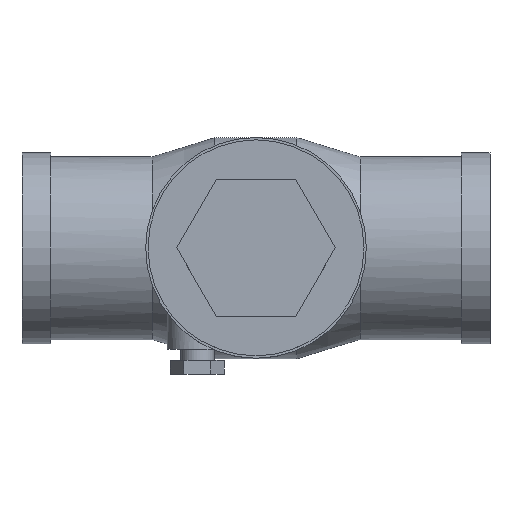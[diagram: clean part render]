
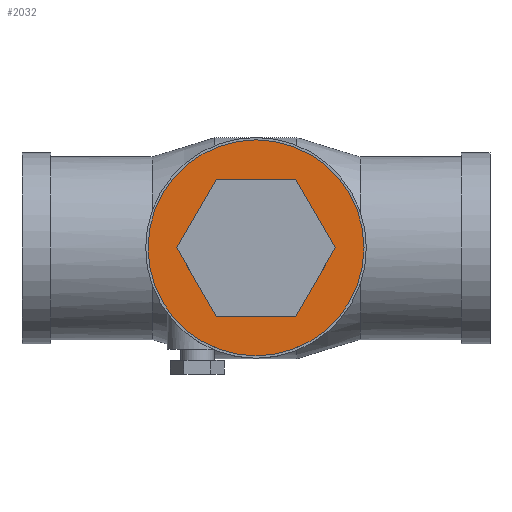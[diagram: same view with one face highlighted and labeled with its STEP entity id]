
A CAD part, top view. The second image highlights one B-rep face of the part: STEP entity #2032.
In plain terms, the highlighted planar face has unit normal (0, 0, 1).
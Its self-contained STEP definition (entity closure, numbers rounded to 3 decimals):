
#1963 = CYLINDRICAL_SURFACE('',#1964,0.81);
#1964 = AXIS2_PLACEMENT_3D('',#1965,#1966,#1967);
#1965 = CARTESIAN_POINT('',(1.755,0.,1.37));
#1966 = DIRECTION('',(0.,0.,1.));
#1967 = DIRECTION('',(1.,0.,-0.));
#1978 = EDGE_CURVE('',#1979,#1979,#1981,.T.);
#1979 = VERTEX_POINT('',#1980);
#1980 = CARTESIAN_POINT('',(2.565,0.,1.485));
#1981 = SURFACE_CURVE('',#1982,(#1987,#1994),.PCURVE_S1.);
#1982 = CIRCLE('',#1983,0.81);
#1983 = AXIS2_PLACEMENT_3D('',#1984,#1985,#1986);
#1984 = CARTESIAN_POINT('',(1.755,0.,1.485));
#1985 = DIRECTION('',(0.,0.,-1.));
#1986 = DIRECTION('',(1.,0.,0.));
#1987 = PCURVE('',#1963,#1988);
#1988 = DEFINITIONAL_REPRESENTATION('',(#1989),#1993);
#1989 = LINE('',#1990,#1991);
#1990 = CARTESIAN_POINT('',(6.283,0.115));
#1991 = VECTOR('',#1992,1.);
#1992 = DIRECTION('',(-1.,0.));
#1993 = ( GEOMETRIC_REPRESENTATION_CONTEXT(2) 
PARAMETRIC_REPRESENTATION_CONTEXT() REPRESENTATION_CONTEXT('2D SPACE',''
  ) );
#1994 = PCURVE('',#1995,#2000);
#1995 = PLANE('',#1996);
#1996 = AXIS2_PLACEMENT_3D('',#1997,#1998,#1999);
#1997 = CARTESIAN_POINT('',(1.755,0.,1.485));
#1998 = DIRECTION('',(0.,0.,1.));
#1999 = DIRECTION('',(1.,0.,-0.));
#2000 = DEFINITIONAL_REPRESENTATION('',(#2001),#2009);
#2001 = ( BOUNDED_CURVE() B_SPLINE_CURVE(2,(#2002,#2003,#2004,#2005,
#2006,#2007,#2008),.UNSPECIFIED.,.T.,.F.) B_SPLINE_CURVE_WITH_KNOTS((1,2
    ,2,2,2,1),(-2.094,0.,2.094,4.189,
6.283,8.378),.UNSPECIFIED.) CURVE() 
GEOMETRIC_REPRESENTATION_ITEM() RATIONAL_B_SPLINE_CURVE((1.,0.5,1.,0.5,
1.,0.5,1.)) REPRESENTATION_ITEM('') );
#2002 = CARTESIAN_POINT('',(0.81,0.));
#2003 = CARTESIAN_POINT('',(0.81,-1.403));
#2004 = CARTESIAN_POINT('',(-0.405,-0.701));
#2005 = CARTESIAN_POINT('',(-1.62,0.));
#2006 = CARTESIAN_POINT('',(-0.405,0.701));
#2007 = CARTESIAN_POINT('',(0.81,1.403));
#2008 = CARTESIAN_POINT('',(0.81,0.));
#2009 = ( GEOMETRIC_REPRESENTATION_CONTEXT(2) 
PARAMETRIC_REPRESENTATION_CONTEXT() REPRESENTATION_CONTEXT('2D SPACE',''
  ) );
#2032 = ADVANCED_FACE('',(#2033,#2036),#1995,.T.);
#2033 = FACE_BOUND('',#2034,.T.);
#2034 = EDGE_LOOP('',(#2035));
#2035 = ORIENTED_EDGE('',*,*,#1978,.F.);
#2036 = FACE_BOUND('',#2037,.T.);
#2037 = EDGE_LOOP('',(#2038,#2068,#2096,#2124,#2152,#2180));
#2038 = ORIENTED_EDGE('',*,*,#2039,.F.);
#2039 = EDGE_CURVE('',#2040,#2042,#2044,.T.);
#2040 = VERTEX_POINT('',#2041);
#2041 = CARTESIAN_POINT('',(1.458,-0.515,1.485));
#2042 = VERTEX_POINT('',#2043);
#2043 = CARTESIAN_POINT('',(2.052,-0.515,1.485));
#2044 = SURFACE_CURVE('',#2045,(#2049,#2056),.PCURVE_S1.);
#2045 = LINE('',#2046,#2047);
#2046 = CARTESIAN_POINT('',(1.458,-0.515,1.485));
#2047 = VECTOR('',#2048,1.);
#2048 = DIRECTION('',(1.,0.,0.));
#2049 = PCURVE('',#1995,#2050);
#2050 = DEFINITIONAL_REPRESENTATION('',(#2051),#2055);
#2051 = LINE('',#2052,#2053);
#2052 = CARTESIAN_POINT('',(-0.297,-0.515));
#2053 = VECTOR('',#2054,1.);
#2054 = DIRECTION('',(1.,0.));
#2055 = ( GEOMETRIC_REPRESENTATION_CONTEXT(2) 
PARAMETRIC_REPRESENTATION_CONTEXT() REPRESENTATION_CONTEXT('2D SPACE',''
  ) );
#2056 = PCURVE('',#2057,#2062);
#2057 = PLANE('',#2058);
#2058 = AXIS2_PLACEMENT_3D('',#2059,#2060,#2061);
#2059 = CARTESIAN_POINT('',(1.755,-0.515,1.485));
#2060 = DIRECTION('',(0.,-1.,0.));
#2061 = DIRECTION('',(1.,0.,0.));
#2062 = DEFINITIONAL_REPRESENTATION('',(#2063),#2067);
#2063 = LINE('',#2064,#2065);
#2064 = CARTESIAN_POINT('',(-0.297,0.));
#2065 = VECTOR('',#2066,1.);
#2066 = DIRECTION('',(1.,0.));
#2067 = ( GEOMETRIC_REPRESENTATION_CONTEXT(2) 
PARAMETRIC_REPRESENTATION_CONTEXT() REPRESENTATION_CONTEXT('2D SPACE',''
  ) );
#2068 = ORIENTED_EDGE('',*,*,#2069,.F.);
#2069 = EDGE_CURVE('',#2070,#2040,#2072,.T.);
#2070 = VERTEX_POINT('',#2071);
#2071 = CARTESIAN_POINT('',(1.16,0.,1.485));
#2072 = SURFACE_CURVE('',#2073,(#2077,#2084),.PCURVE_S1.);
#2073 = LINE('',#2074,#2075);
#2074 = CARTESIAN_POINT('',(1.16,0.,1.485));
#2075 = VECTOR('',#2076,1.);
#2076 = DIRECTION('',(0.5,-0.866,0.));
#2077 = PCURVE('',#1995,#2078);
#2078 = DEFINITIONAL_REPRESENTATION('',(#2079),#2083);
#2079 = LINE('',#2080,#2081);
#2080 = CARTESIAN_POINT('',(-0.595,0.));
#2081 = VECTOR('',#2082,1.);
#2082 = DIRECTION('',(0.5,-0.866));
#2083 = ( GEOMETRIC_REPRESENTATION_CONTEXT(2) 
PARAMETRIC_REPRESENTATION_CONTEXT() REPRESENTATION_CONTEXT('2D SPACE',''
  ) );
#2084 = PCURVE('',#2085,#2090);
#2085 = PLANE('',#2086);
#2086 = AXIS2_PLACEMENT_3D('',#2087,#2088,#2089);
#2087 = CARTESIAN_POINT('',(1.309,-0.258,1.485));
#2088 = DIRECTION('',(-0.866,-0.5,0.));
#2089 = DIRECTION('',(0.5,-0.866,0.));
#2090 = DEFINITIONAL_REPRESENTATION('',(#2091),#2095);
#2091 = LINE('',#2092,#2093);
#2092 = CARTESIAN_POINT('',(-0.297,0.));
#2093 = VECTOR('',#2094,1.);
#2094 = DIRECTION('',(1.,0.));
#2095 = ( GEOMETRIC_REPRESENTATION_CONTEXT(2) 
PARAMETRIC_REPRESENTATION_CONTEXT() REPRESENTATION_CONTEXT('2D SPACE',''
  ) );
#2096 = ORIENTED_EDGE('',*,*,#2097,.F.);
#2097 = EDGE_CURVE('',#2098,#2070,#2100,.T.);
#2098 = VERTEX_POINT('',#2099);
#2099 = CARTESIAN_POINT('',(1.458,0.515,1.485));
#2100 = SURFACE_CURVE('',#2101,(#2105,#2112),.PCURVE_S1.);
#2101 = LINE('',#2102,#2103);
#2102 = CARTESIAN_POINT('',(1.458,0.515,1.485));
#2103 = VECTOR('',#2104,1.);
#2104 = DIRECTION('',(-0.5,-0.866,0.));
#2105 = PCURVE('',#1995,#2106);
#2106 = DEFINITIONAL_REPRESENTATION('',(#2107),#2111);
#2107 = LINE('',#2108,#2109);
#2108 = CARTESIAN_POINT('',(-0.297,0.515));
#2109 = VECTOR('',#2110,1.);
#2110 = DIRECTION('',(-0.5,-0.866));
#2111 = ( GEOMETRIC_REPRESENTATION_CONTEXT(2) 
PARAMETRIC_REPRESENTATION_CONTEXT() REPRESENTATION_CONTEXT('2D SPACE',''
  ) );
#2112 = PCURVE('',#2113,#2118);
#2113 = PLANE('',#2114);
#2114 = AXIS2_PLACEMENT_3D('',#2115,#2116,#2117);
#2115 = CARTESIAN_POINT('',(1.309,0.258,1.485));
#2116 = DIRECTION('',(-0.866,0.5,0.));
#2117 = DIRECTION('',(-0.5,-0.866,0.));
#2118 = DEFINITIONAL_REPRESENTATION('',(#2119),#2123);
#2119 = LINE('',#2120,#2121);
#2120 = CARTESIAN_POINT('',(-0.297,0.));
#2121 = VECTOR('',#2122,1.);
#2122 = DIRECTION('',(1.,0.));
#2123 = ( GEOMETRIC_REPRESENTATION_CONTEXT(2) 
PARAMETRIC_REPRESENTATION_CONTEXT() REPRESENTATION_CONTEXT('2D SPACE',''
  ) );
#2124 = ORIENTED_EDGE('',*,*,#2125,.F.);
#2125 = EDGE_CURVE('',#2126,#2098,#2128,.T.);
#2126 = VERTEX_POINT('',#2127);
#2127 = CARTESIAN_POINT('',(2.052,0.515,1.485));
#2128 = SURFACE_CURVE('',#2129,(#2133,#2140),.PCURVE_S1.);
#2129 = LINE('',#2130,#2131);
#2130 = CARTESIAN_POINT('',(2.052,0.515,1.485));
#2131 = VECTOR('',#2132,1.);
#2132 = DIRECTION('',(-1.,0.,0.));
#2133 = PCURVE('',#1995,#2134);
#2134 = DEFINITIONAL_REPRESENTATION('',(#2135),#2139);
#2135 = LINE('',#2136,#2137);
#2136 = CARTESIAN_POINT('',(0.297,0.515));
#2137 = VECTOR('',#2138,1.);
#2138 = DIRECTION('',(-1.,0.));
#2139 = ( GEOMETRIC_REPRESENTATION_CONTEXT(2) 
PARAMETRIC_REPRESENTATION_CONTEXT() REPRESENTATION_CONTEXT('2D SPACE',''
  ) );
#2140 = PCURVE('',#2141,#2146);
#2141 = PLANE('',#2142);
#2142 = AXIS2_PLACEMENT_3D('',#2143,#2144,#2145);
#2143 = CARTESIAN_POINT('',(1.755,0.515,1.485));
#2144 = DIRECTION('',(0.,1.,0.));
#2145 = DIRECTION('',(-1.,0.,0.));
#2146 = DEFINITIONAL_REPRESENTATION('',(#2147),#2151);
#2147 = LINE('',#2148,#2149);
#2148 = CARTESIAN_POINT('',(-0.297,0.));
#2149 = VECTOR('',#2150,1.);
#2150 = DIRECTION('',(1.,0.));
#2151 = ( GEOMETRIC_REPRESENTATION_CONTEXT(2) 
PARAMETRIC_REPRESENTATION_CONTEXT() REPRESENTATION_CONTEXT('2D SPACE',''
  ) );
#2152 = ORIENTED_EDGE('',*,*,#2153,.F.);
#2153 = EDGE_CURVE('',#2154,#2126,#2156,.T.);
#2154 = VERTEX_POINT('',#2155);
#2155 = CARTESIAN_POINT('',(2.35,0.,1.485));
#2156 = SURFACE_CURVE('',#2157,(#2161,#2168),.PCURVE_S1.);
#2157 = LINE('',#2158,#2159);
#2158 = CARTESIAN_POINT('',(2.35,0.,1.485));
#2159 = VECTOR('',#2160,1.);
#2160 = DIRECTION('',(-0.5,0.866,0.));
#2161 = PCURVE('',#1995,#2162);
#2162 = DEFINITIONAL_REPRESENTATION('',(#2163),#2167);
#2163 = LINE('',#2164,#2165);
#2164 = CARTESIAN_POINT('',(0.595,0.));
#2165 = VECTOR('',#2166,1.);
#2166 = DIRECTION('',(-0.5,0.866));
#2167 = ( GEOMETRIC_REPRESENTATION_CONTEXT(2) 
PARAMETRIC_REPRESENTATION_CONTEXT() REPRESENTATION_CONTEXT('2D SPACE',''
  ) );
#2168 = PCURVE('',#2169,#2174);
#2169 = PLANE('',#2170);
#2170 = AXIS2_PLACEMENT_3D('',#2171,#2172,#2173);
#2171 = CARTESIAN_POINT('',(2.201,0.258,1.485));
#2172 = DIRECTION('',(0.866,0.5,0.));
#2173 = DIRECTION('',(-0.5,0.866,0.));
#2174 = DEFINITIONAL_REPRESENTATION('',(#2175),#2179);
#2175 = LINE('',#2176,#2177);
#2176 = CARTESIAN_POINT('',(-0.297,0.));
#2177 = VECTOR('',#2178,1.);
#2178 = DIRECTION('',(1.,0.));
#2179 = ( GEOMETRIC_REPRESENTATION_CONTEXT(2) 
PARAMETRIC_REPRESENTATION_CONTEXT() REPRESENTATION_CONTEXT('2D SPACE',''
  ) );
#2180 = ORIENTED_EDGE('',*,*,#2181,.F.);
#2181 = EDGE_CURVE('',#2042,#2154,#2182,.T.);
#2182 = SURFACE_CURVE('',#2183,(#2187,#2194),.PCURVE_S1.);
#2183 = LINE('',#2184,#2185);
#2184 = CARTESIAN_POINT('',(2.052,-0.515,1.485));
#2185 = VECTOR('',#2186,1.);
#2186 = DIRECTION('',(0.5,0.866,0.));
#2187 = PCURVE('',#1995,#2188);
#2188 = DEFINITIONAL_REPRESENTATION('',(#2189),#2193);
#2189 = LINE('',#2190,#2191);
#2190 = CARTESIAN_POINT('',(0.297,-0.515));
#2191 = VECTOR('',#2192,1.);
#2192 = DIRECTION('',(0.5,0.866));
#2193 = ( GEOMETRIC_REPRESENTATION_CONTEXT(2) 
PARAMETRIC_REPRESENTATION_CONTEXT() REPRESENTATION_CONTEXT('2D SPACE',''
  ) );
#2194 = PCURVE('',#2195,#2200);
#2195 = PLANE('',#2196);
#2196 = AXIS2_PLACEMENT_3D('',#2197,#2198,#2199);
#2197 = CARTESIAN_POINT('',(2.201,-0.258,1.485));
#2198 = DIRECTION('',(0.866,-0.5,0.));
#2199 = DIRECTION('',(0.5,0.866,0.));
#2200 = DEFINITIONAL_REPRESENTATION('',(#2201),#2205);
#2201 = LINE('',#2202,#2203);
#2202 = CARTESIAN_POINT('',(-0.297,0.));
#2203 = VECTOR('',#2204,1.);
#2204 = DIRECTION('',(1.,0.));
#2205 = ( GEOMETRIC_REPRESENTATION_CONTEXT(2) 
PARAMETRIC_REPRESENTATION_CONTEXT() REPRESENTATION_CONTEXT('2D SPACE',''
  ) );
